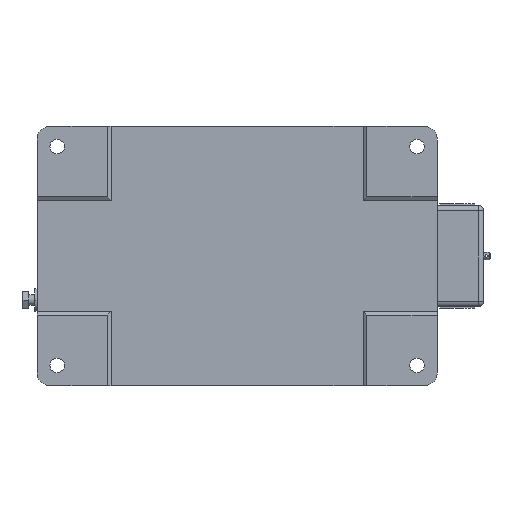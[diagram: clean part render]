
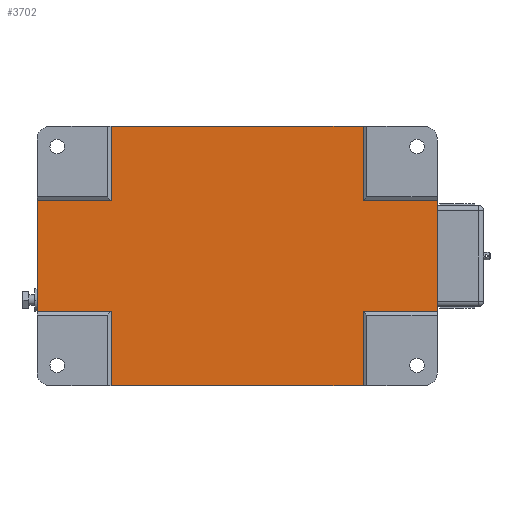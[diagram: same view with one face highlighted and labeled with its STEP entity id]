
A CAD part, front view. The second image highlights one B-rep face of the part: STEP entity #3702.
In plain terms, the highlighted planar face has unit normal (0, -1, 0).
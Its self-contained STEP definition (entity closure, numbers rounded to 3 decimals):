
#126 = ORIENTED_EDGE ( 'NONE', *, *, #4886, .T. ) ;
#160 = CARTESIAN_POINT ( 'NONE',  ( -208., 2., 44.144 ) ) ;
#325 = VERTEX_POINT ( 'NONE', #8120 ) ;
#337 = EDGE_CURVE ( 'NONE', #5028, #5288, #7196, .T. ) ;
#460 = VECTOR ( 'NONE', #9568, 1000. ) ;
#467 = DIRECTION ( 'NONE',  ( 0., 1., 0. ) ) ;
#470 = LINE ( 'NONE', #3908, #4440 ) ;
#691 = DIRECTION ( 'NONE',  ( -1., 0., 0. ) ) ;
#805 = EDGE_CURVE ( 'NONE', #3900, #6234, #470, .T. ) ;
#819 = VECTOR ( 'NONE', #5699, 1000. ) ;
#946 = EDGE_CURVE ( 'NONE', #5028, #9196, #7901, .T. ) ;
#951 = VERTEX_POINT ( 'NONE', #7787 ) ;
#1026 = CARTESIAN_POINT ( 'NONE',  ( -208., 2., 44.144 ) ) ;
#1072 = LINE ( 'NONE', #6251, #9170 ) ;
#1310 = CARTESIAN_POINT ( 'NONE',  ( -208., 2., 44.144 ) ) ;
#1420 = DIRECTION ( 'NONE',  ( -1., 0., 0. ) ) ;
#1783 = VECTOR ( 'NONE', #6196, 1000. ) ;
#1785 = EDGE_CURVE ( 'NONE', #10964, #3900, #3012, .T. ) ;
#1898 = VERTEX_POINT ( 'NONE', #4006 ) ;
#2001 = ORIENTED_EDGE ( 'NONE', *, *, #6972, .F. ) ;
#2007 = LINE ( 'NONE', #1026, #3592 ) ;
#2179 = PLANE ( 'NONE',  #4189 ) ;
#2380 = LINE ( 'NONE', #5993, #6063 ) ;
#2516 = CARTESIAN_POINT ( 'NONE',  ( 51.144, 2., -103. ) ) ;
#2734 = CARTESIAN_POINT ( 'NONE',  ( -149.144, 2., -103. ) ) ;
#2843 = EDGE_CURVE ( 'NONE', #8233, #9196, #1072, .T. ) ;
#2985 = EDGE_CURVE ( 'NONE', #951, #325, #2380, .T. ) ;
#3012 = LINE ( 'NONE', #3733, #11150 ) ;
#3478 = LINE ( 'NONE', #2516, #7821 ) ;
#3573 = CARTESIAN_POINT ( 'NONE',  ( -208., 2., -44.144 ) ) ;
#3592 = VECTOR ( 'NONE', #9696, 1000. ) ;
#3702 = ADVANCED_FACE ( 'NONE', ( #5735 ), #2179, .F. ) ;
#3733 = CARTESIAN_POINT ( 'NONE',  ( 51.144, 2., -103. ) ) ;
#3748 = VERTEX_POINT ( 'NONE', #7727 ) ;
#3820 = EDGE_LOOP ( 'NONE', ( #2001, #10531, #6201, #7667, #9445, #6087, #10589, #5819, #7709, #10427, #10667, #126 ) ) ;
#3900 = VERTEX_POINT ( 'NONE', #9808 ) ;
#3908 = CARTESIAN_POINT ( 'NONE',  ( -208., 2., -44.144 ) ) ;
#4006 = CARTESIAN_POINT ( 'NONE',  ( 51.144, 2., 44.144 ) ) ;
#4189 = AXIS2_PLACEMENT_3D ( 'NONE', #1310, #467, #1420 ) ;
#4440 = VECTOR ( 'NONE', #7383, 1000. ) ;
#4886 = EDGE_CURVE ( 'NONE', #6234, #7582, #10730, .T. ) ;
#5028 = VERTEX_POINT ( 'NONE', #8066 ) ;
#5097 = CARTESIAN_POINT ( 'NONE',  ( -149.144, 2., -44.144 ) ) ;
#5288 = VERTEX_POINT ( 'NONE', #6046 ) ;
#5526 = CARTESIAN_POINT ( 'NONE',  ( 110., 2., 44.144 ) ) ;
#5699 = DIRECTION ( 'NONE',  ( 0., 0., 1. ) ) ;
#5735 = FACE_OUTER_BOUND ( 'NONE', #3820, .T. ) ;
#5785 = CARTESIAN_POINT ( 'NONE',  ( 51.144, 2., -103. ) ) ;
#5819 = ORIENTED_EDGE ( 'NONE', *, *, #2843, .F. ) ;
#5993 = CARTESIAN_POINT ( 'NONE',  ( 51.144, 2., 103. ) ) ;
#6046 = CARTESIAN_POINT ( 'NONE',  ( -208., 2., 44.144 ) ) ;
#6053 = CARTESIAN_POINT ( 'NONE',  ( 110., 2., -44.144 ) ) ;
#6063 = VECTOR ( 'NONE', #10237, 1000. ) ;
#6087 = ORIENTED_EDGE ( 'NONE', *, *, #337, .F. ) ;
#6109 = CARTESIAN_POINT ( 'NONE',  ( -208., 2., 44.144 ) ) ;
#6140 = LINE ( 'NONE', #2734, #1783 ) ;
#6196 = DIRECTION ( 'NONE',  ( 0., 0., 1. ) ) ;
#6201 = ORIENTED_EDGE ( 'NONE', *, *, #2985, .T. ) ;
#6234 = VERTEX_POINT ( 'NONE', #6053 ) ;
#6251 = CARTESIAN_POINT ( 'NONE',  ( -149.144, 2., -103. ) ) ;
#6328 = CARTESIAN_POINT ( 'NONE',  ( 110., 2., 44.144 ) ) ;
#6506 = VECTOR ( 'NONE', #8200, 1000. ) ;
#6972 = EDGE_CURVE ( 'NONE', #1898, #7582, #2007, .T. ) ;
#6983 = EDGE_CURVE ( 'NONE', #3748, #325, #6140, .T. ) ;
#7196 = LINE ( 'NONE', #160, #819 ) ;
#7383 = DIRECTION ( 'NONE',  ( 1., 0., 0. ) ) ;
#7582 = VERTEX_POINT ( 'NONE', #5526 ) ;
#7667 = ORIENTED_EDGE ( 'NONE', *, *, #6983, .F. ) ;
#7709 = ORIENTED_EDGE ( 'NONE', *, *, #10815, .F. ) ;
#7727 = CARTESIAN_POINT ( 'NONE',  ( -149.144, 2., 44.144 ) ) ;
#7787 = CARTESIAN_POINT ( 'NONE',  ( 51.144, 2., 103. ) ) ;
#7821 = VECTOR ( 'NONE', #691, 1000. ) ;
#7878 = DIRECTION ( 'NONE',  ( 1., 0., 0. ) ) ;
#7901 = LINE ( 'NONE', #3573, #460 ) ;
#8062 = EDGE_CURVE ( 'NONE', #1898, #951, #8302, .T. ) ;
#8066 = CARTESIAN_POINT ( 'NONE',  ( -208., 2., -44.144 ) ) ;
#8070 = VECTOR ( 'NONE', #9982, 1000. ) ;
#8120 = CARTESIAN_POINT ( 'NONE',  ( -149.144, 2., 103. ) ) ;
#8169 = VECTOR ( 'NONE', #7878, 1000. ) ;
#8200 = DIRECTION ( 'NONE',  ( 0., 0., 1. ) ) ;
#8233 = VERTEX_POINT ( 'NONE', #8934 ) ;
#8302 = LINE ( 'NONE', #5785, #6506 ) ;
#8553 = LINE ( 'NONE', #6109, #8169 ) ;
#8891 = CARTESIAN_POINT ( 'NONE',  ( 51.144, 2., -103. ) ) ;
#8934 = CARTESIAN_POINT ( 'NONE',  ( -149.144, 2., -103. ) ) ;
#9170 = VECTOR ( 'NONE', #9806, 1000. ) ;
#9196 = VERTEX_POINT ( 'NONE', #5097 ) ;
#9445 = ORIENTED_EDGE ( 'NONE', *, *, #9448, .F. ) ;
#9448 = EDGE_CURVE ( 'NONE', #5288, #3748, #8553, .T. ) ;
#9568 = DIRECTION ( 'NONE',  ( 1., 0., 0. ) ) ;
#9696 = DIRECTION ( 'NONE',  ( 1., 0., 0. ) ) ;
#9806 = DIRECTION ( 'NONE',  ( 0., 0., 1. ) ) ;
#9808 = CARTESIAN_POINT ( 'NONE',  ( 51.144, 2., -44.144 ) ) ;
#9969 = DIRECTION ( 'NONE',  ( 0., 0., 1. ) ) ;
#9982 = DIRECTION ( 'NONE',  ( 0., 0., 1. ) ) ;
#10237 = DIRECTION ( 'NONE',  ( -1., 0., 0. ) ) ;
#10427 = ORIENTED_EDGE ( 'NONE', *, *, #1785, .T. ) ;
#10531 = ORIENTED_EDGE ( 'NONE', *, *, #8062, .T. ) ;
#10589 = ORIENTED_EDGE ( 'NONE', *, *, #946, .T. ) ;
#10667 = ORIENTED_EDGE ( 'NONE', *, *, #805, .T. ) ;
#10730 = LINE ( 'NONE', #6328, #8070 ) ;
#10815 = EDGE_CURVE ( 'NONE', #10964, #8233, #3478, .T. ) ;
#10964 = VERTEX_POINT ( 'NONE', #8891 ) ;
#11150 = VECTOR ( 'NONE', #9969, 1000. ) ;
